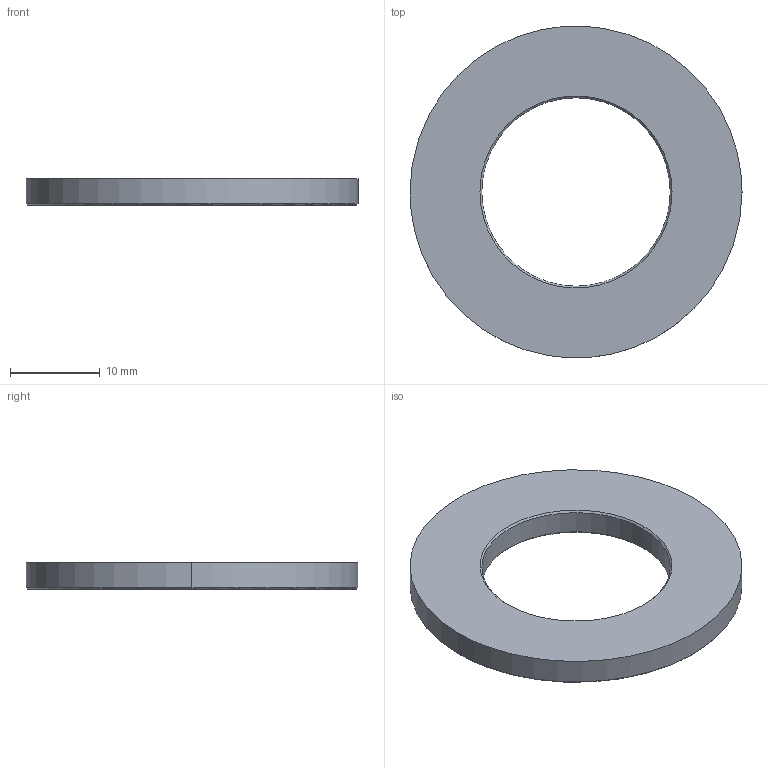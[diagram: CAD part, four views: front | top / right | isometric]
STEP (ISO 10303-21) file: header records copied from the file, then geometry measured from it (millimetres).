
FILE_DESCRIPTION(/* description */ (''),/* implementation_level */ '2;1');
FILE_NAME(/* name */ 'Washer1',/* time_stamp */ '2020-06-25T00:30:56-06:00',/* author */ (''),/* organization */ (''),/* preprocessor_version */ 'ST-DEVELOPER v15',/* originating_system */ '',/* authorisation */ '');
FILE_SCHEMA (('AUTOMOTIVE_DESIGN'));
Length unit declared in the file: millimetre
Products named in the file (1): Document
Bounding box: 37 x 36.96 x 3 mm (x, y, z)
Volume: 2185.9 mm3; surface area: 1975.9 mm2
Topology: 1 solids, 1 shells, 12 faces, 24 edges, 14 vertices
Faces by surface type: bspline 10, plane 2
Entity records: 644 total; most frequent: CARTESIAN_POINT 460, ORIENTED_EDGE 48, EDGE_CURVE 24, EDGE_LOOP 14, VERTEX_POINT 14, ADVANCED_FACE 12, FACE_OUTER_BOUND 12, B_SPLINE_CURVE_WITH_KNOTS 12
